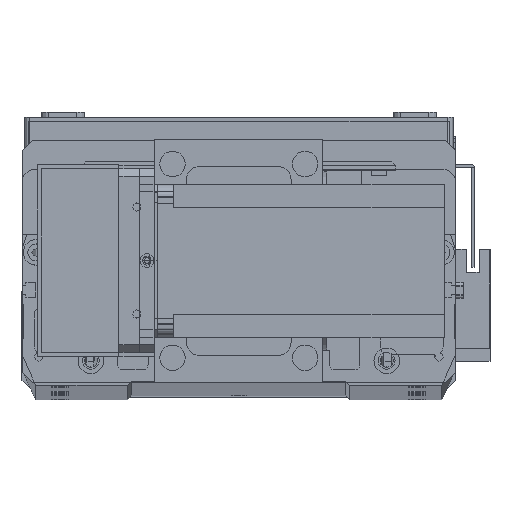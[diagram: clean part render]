
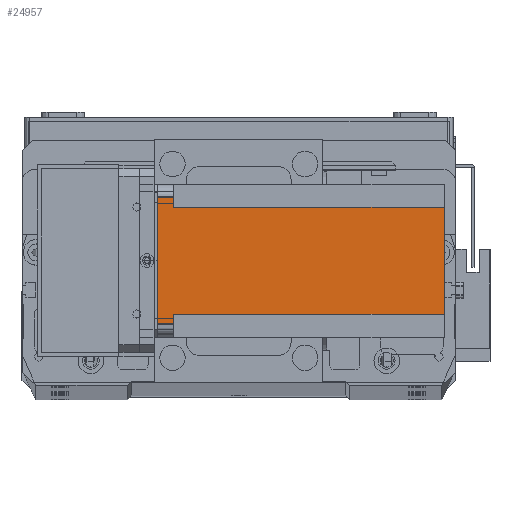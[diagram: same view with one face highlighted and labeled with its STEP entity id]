
A CAD part, top view. The second image highlights one B-rep face of the part: STEP entity #24957.
In plain terms, the highlighted planar face has unit normal (0, 0, 1) as drawn and (-1, 0, 0) by its records, which use the part's own axes.
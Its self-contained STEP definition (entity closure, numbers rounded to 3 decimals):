
#1893 = VECTOR ( 'NONE', #24413, 1000. ) ;
#2364 = VECTOR ( 'NONE', #27878, 1000. ) ;
#2441 = CARTESIAN_POINT ( 'NONE',  ( 0., 51., -6.5 ) ) ;
#3164 = DIRECTION ( 'NONE',  ( 0., -1., 0. ) ) ;
#3762 = VERTEX_POINT ( 'NONE', #18627 ) ;
#3827 = ORIENTED_EDGE ( 'NONE', *, *, #29538, .T. ) ;
#4016 = ORIENTED_EDGE ( 'NONE', *, *, #26326, .F. ) ;
#4560 = DIRECTION ( 'NONE',  ( -1., 0., 0. ) ) ;
#4817 = VECTOR ( 'NONE', #7982, 1000. ) ;
#5095 = CARTESIAN_POINT ( 'NONE',  ( 0., 0., 0. ) ) ;
#5505 = CARTESIAN_POINT ( 'NONE',  ( 0., 55., -112.5 ) ) ;
#6251 = CARTESIAN_POINT ( 'NONE',  ( 0., 9., -112.5 ) ) ;
#7795 = DIRECTION ( 'NONE',  ( 0., -1., 0. ) ) ;
#7982 = DIRECTION ( 'NONE',  ( 0., 0., 1. ) ) ;
#8888 = LINE ( 'NONE', #6251, #29638 ) ;
#8943 = DIRECTION ( 'NONE',  ( 0., 0., -1. ) ) ;
#9856 = CARTESIAN_POINT ( 'NONE',  ( 0., 0., -6.5 ) ) ;
#10048 = CARTESIAN_POINT ( 'NONE',  ( 0., 5., -6.5 ) ) ;
#10942 = CARTESIAN_POINT ( 'NONE',  ( 0., 60., -6.5 ) ) ;
#11259 = VERTEX_POINT ( 'NONE', #26138 ) ;
#11593 = LINE ( 'NONE', #10942, #17932 ) ;
#12493 = VERTEX_POINT ( 'NONE', #12967 ) ;
#12967 = CARTESIAN_POINT ( 'NONE',  ( 0., 55., 0. ) ) ;
#13473 = LINE ( 'NONE', #9856, #34142 ) ;
#13549 = LINE ( 'NONE', #5095, #25349 ) ;
#13877 = ORIENTED_EDGE ( 'NONE', *, *, #20175, .T. ) ;
#14136 = VERTEX_POINT ( 'NONE', #32662 ) ;
#14409 = CARTESIAN_POINT ( 'NONE',  ( 0., 51., -112.5 ) ) ;
#16159 = CARTESIAN_POINT ( 'NONE',  ( 0., 5., -112.5 ) ) ;
#16380 = ORIENTED_EDGE ( 'NONE', *, *, #17221, .F. ) ;
#16769 = LINE ( 'NONE', #14409, #2364 ) ;
#17221 = EDGE_CURVE ( 'NONE', #22663, #11259, #13473, .T. ) ;
#17339 = AXIS2_PLACEMENT_3D ( 'NONE', #20738, #4560, #23450 ) ;
#17787 = VERTEX_POINT ( 'NONE', #34885 ) ;
#17932 = VECTOR ( 'NONE', #27140, 1000. ) ;
#18047 = DIRECTION ( 'NONE',  ( 0., 1., 0. ) ) ;
#18627 = CARTESIAN_POINT ( 'NONE',  ( 0., 9., -112.5 ) ) ;
#19219 = LINE ( 'NONE', #16159, #4817 ) ;
#20175 = EDGE_CURVE ( 'NONE', #14136, #3762, #30064, .T. ) ;
#20738 = CARTESIAN_POINT ( 'NONE',  ( 0., 0., -112.5 ) ) ;
#20871 = EDGE_CURVE ( 'NONE', #12493, #17787, #13549, .T. ) ;
#22022 = VECTOR ( 'NONE', #3164, 1000. ) ;
#22638 = LINE ( 'NONE', #5505, #1893 ) ;
#22663 = VERTEX_POINT ( 'NONE', #10048 ) ;
#23061 = EDGE_CURVE ( 'NONE', #14136, #32005, #16769, .T. ) ;
#23335 = PLANE ( 'NONE',  #17339 ) ;
#23450 = DIRECTION ( 'NONE',  ( 0., -1., 0. ) ) ;
#24413 = DIRECTION ( 'NONE',  ( 0., 0., -1. ) ) ;
#24811 = CARTESIAN_POINT ( 'NONE',  ( 0., 0., -112.5 ) ) ;
#24957 = ADVANCED_FACE ( 'NONE', ( #32331 ), #23335, .T. ) ;
#25196 = EDGE_CURVE ( 'NONE', #22663, #17787, #19219, .T. ) ;
#25349 = VECTOR ( 'NONE', #7795, 1000. ) ;
#25805 = CARTESIAN_POINT ( 'NONE',  ( 0., 55., -6.5 ) ) ;
#26138 = CARTESIAN_POINT ( 'NONE',  ( 0., 9., -6.5 ) ) ;
#26177 = ORIENTED_EDGE ( 'NONE', *, *, #25196, .T. ) ;
#26326 = EDGE_CURVE ( 'NONE', #11259, #3762, #8888, .T. ) ;
#27140 = DIRECTION ( 'NONE',  ( 0., 1., 0. ) ) ;
#27878 = DIRECTION ( 'NONE',  ( 0., 0., 1. ) ) ;
#28195 = VERTEX_POINT ( 'NONE', #25805 ) ;
#28782 = EDGE_LOOP ( 'NONE', ( #16380, #26177, #33859, #3827, #34247, #32709, #13877, #4016 ) ) ;
#29538 = EDGE_CURVE ( 'NONE', #12493, #28195, #22638, .T. ) ;
#29638 = VECTOR ( 'NONE', #8943, 1000. ) ;
#30064 = LINE ( 'NONE', #24811, #22022 ) ;
#32005 = VERTEX_POINT ( 'NONE', #2441 ) ;
#32076 = EDGE_CURVE ( 'NONE', #32005, #28195, #11593, .T. ) ;
#32331 = FACE_OUTER_BOUND ( 'NONE', #28782, .T. ) ;
#32662 = CARTESIAN_POINT ( 'NONE',  ( 0., 51., -112.5 ) ) ;
#32709 = ORIENTED_EDGE ( 'NONE', *, *, #23061, .F. ) ;
#33859 = ORIENTED_EDGE ( 'NONE', *, *, #20871, .F. ) ;
#34142 = VECTOR ( 'NONE', #18047, 1000. ) ;
#34247 = ORIENTED_EDGE ( 'NONE', *, *, #32076, .F. ) ;
#34885 = CARTESIAN_POINT ( 'NONE',  ( 0., 5., 0. ) ) ;
